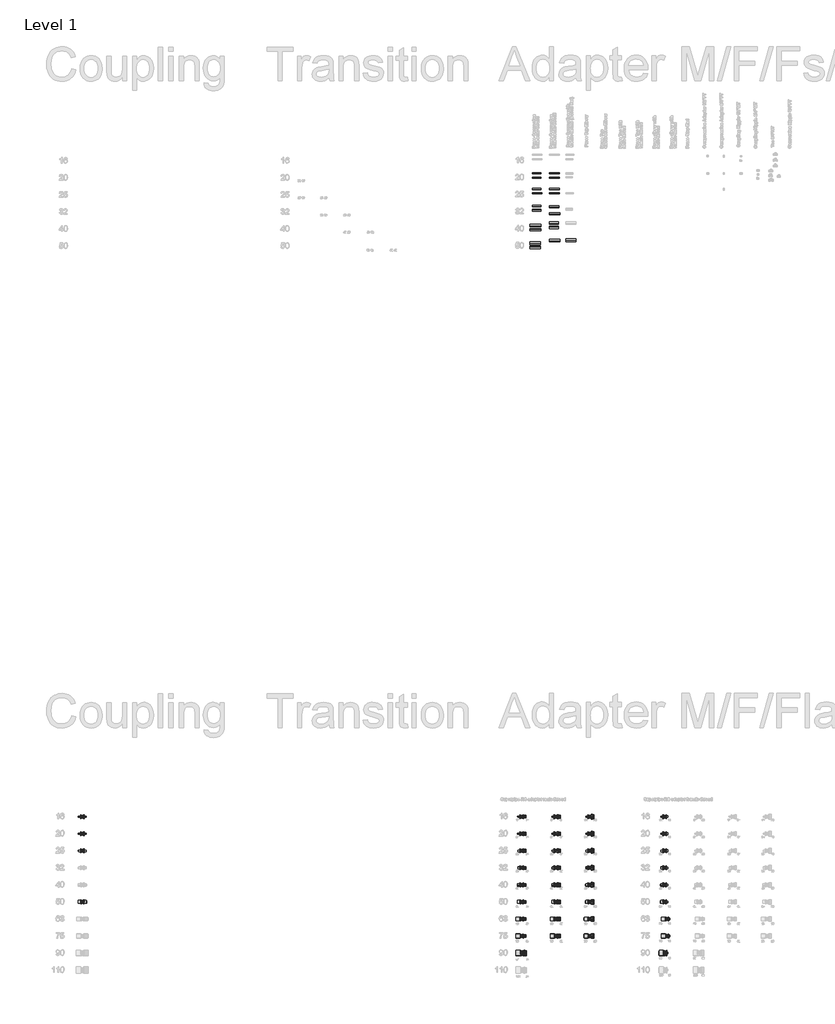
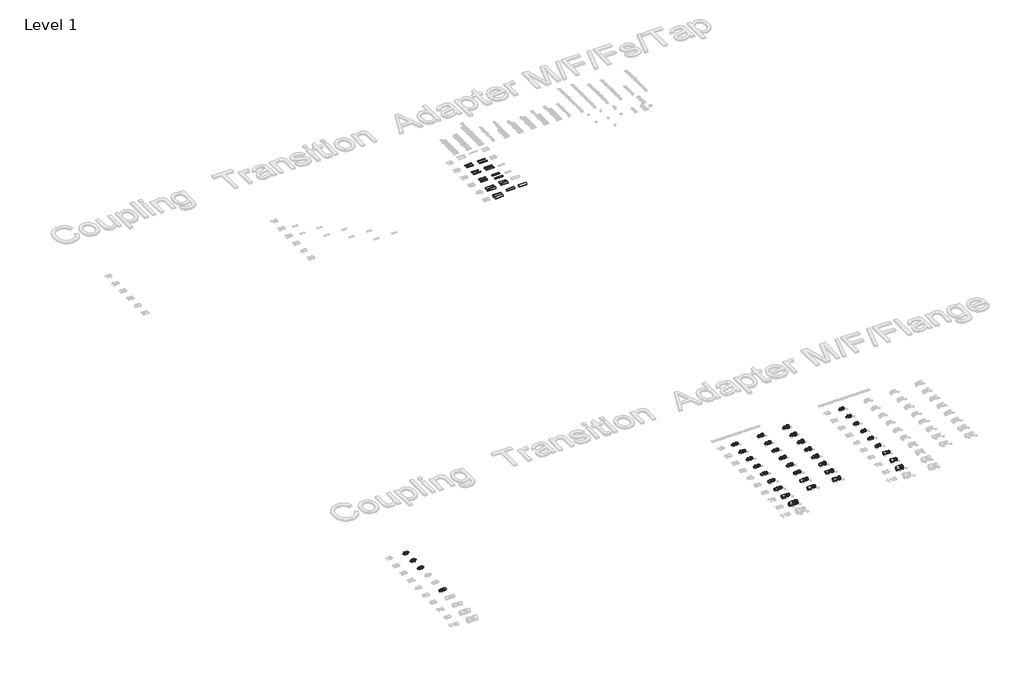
# One storey, part 4 of 58: 76 pipe fittings, 20 pipe segments.
"""IFC4 building model written with IfcOpenShell, lengths in millimetres."""

from ifc_helpers import new_model, si_unit, point, frame, frame_2d, origin, place, context, project, spatial, circle_curve, trimmed, segment, composite_curve, outline, extrude, transform, mapped, element, save
from components import rs_adapter_b4bbd465, rs_adapter_f82712ed, rs_adapter_ef84fdb0, rs_adapter_c6cd646c, rs_adapter_ed761ce0, rs_adapter_634e7d73, rs_adapter_fc67200b, rs_adapter_b700a1d7, rs_adapter_1ad0a11d, rs_female_adapter_fa9c9adc, rs_female_adapter_0a1702e8, rs_male_adapter_99ed5b1f, rs_male_adapter_996c7fea, rs_male_adapter_f12c7176, rs_male_adapter_b5bc1ed4

model = new_model("IFC4")

# Units and contexts
model_context = context("Model", 3, world=origin())
ifc_project = project(units=[si_unit("LENGTHUNIT", "METRE", prefix="MILLI")], contexts=[model_context])

# Site, building, storey
site = spatial("IfcSite", under=ifc_project)
building = spatial("IfcBuilding", under=site)
storey = spatial("IfcBuildingStorey", under=building, Name="Level 1", Elevation=27.3876384)

# Pipe fittings
placement = place(None, origin())
rs_adapter_shape = rs_adapter_b4bbd465(model_context)
element("IfcPipeFitting", 1, ObjectType="RS Adapter : Superpipe RS Press Adapter", at=placement, inside=storey, context=model_context, shape_type="MappedRepresentation", body=[
    mapped(rs_adapter_shape, transform((21455.9646899, 18646.8081159, 27.3876384), x_axis=(1.0000000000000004, 0.0, 0.0), y_axis=(0.0, -1.0000000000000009, 0.0), z_axis=(0.0, 0.0, -1.0000000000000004))),
])
element("IfcPipeFitting", 2, ObjectType="RS Adapter : Superpipe RS Press Adapter", at=placement, inside=storey, context=model_context, shape_type="MappedRepresentation", body=[
    mapped(rs_adapter_shape, transform((21437.9646899, 18646.8081159, 27.3876384), x_axis=(-1.0000000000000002, 0.0, 0.0), y_axis=(0.0, 1.0000000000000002, 0.0), z_axis=(0.0, 0.0, -1.0))),
])
element("IfcPipeFitting", 3, ObjectType="RS Adapter : Superpipe RS Press Adapter", at=placement, inside=storey, context=model_context, shape_type="MappedRepresentation", body=[
    mapped(rs_adapter_shape, transform((29168.6568613, 18646.8081159, 27.3876384), x_axis=(-1.0, 0.0, 0.0), y_axis=(0.0, 1.0, 0.0), z_axis=(0.0, 0.0, -1.0))),
])
element("IfcPipeFitting", 4, ObjectType="RS Adapter : Superpipe RS Press Adapter", at=placement, inside=storey, context=model_context, shape_type="MappedRepresentation", body=[
    mapped(rs_adapter_shape, transform((31688.6568613, 18646.8081159, 27.3876384), x_axis=(-1.0000000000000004, 0.0, 0.0), y_axis=(0.0, 1.0000000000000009, 0.0), z_axis=(0.0, 0.0, -1.0000000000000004))),
])
element("IfcPipeFitting", 5, ObjectType="RS Adapter : Superpipe RS Press Adapter", at=placement, inside=storey, context=model_context, shape_type="MappedRepresentation", body=[
    mapped(rs_adapter_shape, transform((29773.6568613, 18646.8081159, 27.3876384), x_axis=(-1.0, 0.0, 0.0), y_axis=(0.0, 1.0, 0.0), z_axis=(0.0, 0.0, -1.0))),
])
element("IfcPipeFitting", 6, ObjectType="RS Adapter : Superpipe RS Press Adapter", at=placement, inside=storey, context=model_context, shape_type="MappedRepresentation", body=[
    mapped(rs_adapter_shape, transform((30368.6568613, 18646.8081159, 27.3876384), x_axis=(-1.0, 0.0, 0.0), y_axis=(0.0, -1.0, 0.0), z_axis=(0.0, 0.0, 1.0))),
])
rs_adapter_2_shape = rs_adapter_f82712ed(model_context)
element("IfcPipeFitting", 7, ObjectType="RS Adapter : Superpipe RS Press Adapter", at=placement, inside=storey, context=model_context, shape_type="MappedRepresentation", body=[
    mapped(rs_adapter_2_shape, transform((21455.9646899, 18346.8081159, 27.3876384), x_axis=(1.0000000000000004, 0.0, 0.0), y_axis=(0.0, -1.0000000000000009, 0.0), z_axis=(0.0, 0.0, -1.0000000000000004))),
])
element("IfcPipeFitting", 8, ObjectType="RS Adapter : Superpipe RS Press Adapter", at=placement, inside=storey, context=model_context, shape_type="MappedRepresentation", body=[
    mapped(rs_adapter_2_shape, transform((21437.9646899, 18346.8081159, 27.3876384), x_axis=(-1.0000000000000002, 0.0, 0.0), y_axis=(0.0, 1.0000000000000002, 0.0), z_axis=(0.0, 0.0, -1.0))),
])
element("IfcPipeFitting", 9, ObjectType="RS Adapter : Superpipe RS Press Adapter", at=placement, inside=storey, context=model_context, shape_type="MappedRepresentation", body=[
    mapped(rs_adapter_2_shape, transform((29168.6568613, 18346.8081159, 27.3876384), x_axis=(-1.0, 0.0, 0.0), y_axis=(0.0, 1.0, 0.0), z_axis=(0.0, 0.0, -1.0))),
])
element("IfcPipeFitting", 10, ObjectType="RS Adapter : Superpipe RS Press Adapter", at=placement, inside=storey, context=model_context, shape_type="MappedRepresentation", body=[
    mapped(rs_adapter_2_shape, transform((31688.6568613, 18346.8081159, 27.3876384), x_axis=(-1.0000000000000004, 0.0, 0.0), y_axis=(0.0, 1.0000000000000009, 0.0), z_axis=(0.0, 0.0, -1.0000000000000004))),
])
element("IfcPipeFitting", 11, ObjectType="RS Adapter : Superpipe RS Press Adapter", at=placement, inside=storey, context=model_context, shape_type="MappedRepresentation", body=[
    mapped(rs_adapter_2_shape, transform((29773.6568613, 18346.8081159, 27.3876384), x_axis=(-1.0, 0.0, 0.0), y_axis=(0.0, 1.0, 0.0), z_axis=(0.0, 0.0, -1.0))),
])
element("IfcPipeFitting", 12, ObjectType="RS Adapter : Superpipe RS Press Adapter", at=placement, inside=storey, context=model_context, shape_type="MappedRepresentation", body=[
    mapped(rs_adapter_2_shape, transform((30368.6568613, 18346.8081159, 27.3876384), x_axis=(-1.0, 0.0, 0.0), y_axis=(0.0, -1.0, 0.0), z_axis=(0.0, 0.0, 1.0))),
])
rs_adapter_3_shape = rs_adapter_ef84fdb0(model_context)
element("IfcPipeFitting", 13, ObjectType="RS Adapter : Superpipe RS Press Adapter", at=placement, inside=storey, context=model_context, shape_type="MappedRepresentation", body=[
    mapped(rs_adapter_3_shape, transform((21455.9646899, 18046.8081159, 27.3876384), x_axis=(1.0000000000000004, 0.0, 0.0), y_axis=(0.0, -1.0000000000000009, 0.0), z_axis=(0.0, 0.0, -1.0000000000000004))),
])
element("IfcPipeFitting", 14, ObjectType="RS Adapter : Superpipe RS Press Adapter", at=placement, inside=storey, context=model_context, shape_type="MappedRepresentation", body=[
    mapped(rs_adapter_3_shape, transform((21437.9646899, 18046.8081159, 27.3876384), x_axis=(-1.0000000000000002, 0.0, 0.0), y_axis=(0.0, 1.0000000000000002, 0.0), z_axis=(0.0, 0.0, -1.0))),
])
element("IfcPipeFitting", 15, ObjectType="RS Adapter : Superpipe RS Press Adapter", at=placement, inside=storey, context=model_context, shape_type="MappedRepresentation", body=[
    mapped(rs_adapter_3_shape, transform((29168.6568613, 18046.8081159, 27.3876384), x_axis=(-1.0, 0.0, 0.0), y_axis=(0.0, 1.0, 0.0), z_axis=(0.0, 0.0, -1.0))),
])
element("IfcPipeFitting", 16, ObjectType="RS Adapter : Superpipe RS Press Adapter", at=placement, inside=storey, context=model_context, shape_type="MappedRepresentation", body=[
    mapped(rs_adapter_3_shape, transform((31688.6568613, 18046.8081159, 27.3876384), x_axis=(-1.0000000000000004, 0.0, 0.0), y_axis=(0.0, 1.0000000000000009, 0.0), z_axis=(0.0, 0.0, -1.0000000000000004))),
])
element("IfcPipeFitting", 17, ObjectType="RS Adapter : Superpipe RS Press Adapter", at=placement, inside=storey, context=model_context, shape_type="MappedRepresentation", body=[
    mapped(rs_adapter_3_shape, transform((29773.6568613, 18046.8081159, 27.3876384), x_axis=(-1.0, 0.0, 0.0), y_axis=(0.0, 1.0, 0.0), z_axis=(0.0, 0.0, -1.0))),
])
element("IfcPipeFitting", 18, ObjectType="RS Adapter : Superpipe RS Press Adapter", at=placement, inside=storey, context=model_context, shape_type="MappedRepresentation", body=[
    mapped(rs_adapter_3_shape, transform((30368.6568613, 18046.8081159, 27.3876384), x_axis=(-1.0, 0.0, 0.0), y_axis=(0.0, -1.0, 0.0), z_axis=(0.0, 0.0, 1.0))),
])
rs_adapter_4_shape = rs_adapter_c6cd646c(model_context)
element("IfcPipeFitting", 19, ObjectType="RS Adapter : Superpipe RS Press Adapter", at=placement, inside=storey, context=model_context, shape_type="MappedRepresentation", body=[
    mapped(rs_adapter_4_shape, transform((29176.6568613, 16246.8081159, 27.3876384), x_axis=(-1.0, 0.0, 0.0), y_axis=(0.0, 1.0, 0.0), z_axis=(0.0, 0.0, -1.0))),
])
element("IfcPipeFitting", 20, ObjectType="RS Adapter : Superpipe RS Press Adapter", at=placement, inside=storey, context=model_context, shape_type="MappedRepresentation", body=[
    mapped(rs_adapter_4_shape, transform((31696.6568613, 16246.8081159, 27.3876384), x_axis=(-1.0000000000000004, 0.0, 0.0), y_axis=(0.0, 1.0000000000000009, 0.0), z_axis=(0.0, 0.0, -1.0000000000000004))),
])
rs_adapter_5_shape = rs_adapter_ed761ce0(model_context)
element("IfcPipeFitting", 21, ObjectType="RS Adapter : Superpipe RS Press Adapter", at=placement, inside=storey, context=model_context, shape_type="MappedRepresentation", body=[
    mapped(rs_adapter_5_shape, transform((29168.6568613, 17746.8081159, 27.3876384), x_axis=(-1.0, 0.0, 0.0), y_axis=(0.0, 1.0, 0.0), z_axis=(0.0, 0.0, -1.0))),
])
element("IfcPipeFitting", 22, ObjectType="RS Adapter : Superpipe RS Press Adapter", at=placement, inside=storey, context=model_context, shape_type="MappedRepresentation", body=[
    mapped(rs_adapter_5_shape, transform((31688.6568613, 17746.8081159, 27.3876384), x_axis=(-1.0000000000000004, 0.0, 0.0), y_axis=(0.0, 1.0000000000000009, 0.0), z_axis=(0.0, 0.0, -1.0000000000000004))),
])
element("IfcPipeFitting", 23, ObjectType="RS Adapter : Superpipe RS Press Adapter", at=placement, inside=storey, context=model_context, shape_type="MappedRepresentation", body=[
    mapped(rs_adapter_5_shape, transform((29773.6568613, 17746.8081159, 27.3876384), x_axis=(-1.0, 0.0, 0.0), y_axis=(0.0, 1.0, 0.0), z_axis=(0.0, 0.0, -1.0))),
])
element("IfcPipeFitting", 24, ObjectType="RS Adapter : Superpipe RS Press Adapter", at=placement, inside=storey, context=model_context, shape_type="MappedRepresentation", body=[
    mapped(rs_adapter_5_shape, transform((30368.6568613, 17746.8081159, 27.3876384), x_axis=(-1.0, 0.0, 0.0), y_axis=(0.0, -1.0, 0.0), z_axis=(0.0, 0.0, 1.0))),
])
rs_adapter_6_shape = rs_adapter_634e7d73(model_context)
element("IfcPipeFitting", 25, ObjectType="RS Adapter : Superpipe RS Press Adapter", at=placement, inside=storey, context=model_context, shape_type="MappedRepresentation", body=[
    mapped(rs_adapter_6_shape, transform((29168.6568613, 17446.8081159, 27.3876384), x_axis=(-1.0, 0.0, 0.0), y_axis=(0.0, 1.0, 0.0), z_axis=(0.0, 0.0, -1.0))),
])
element("IfcPipeFitting", 26, ObjectType="RS Adapter : Superpipe RS Press Adapter", at=placement, inside=storey, context=model_context, shape_type="MappedRepresentation", body=[
    mapped(rs_adapter_6_shape, transform((31688.6568613, 17446.8081159, 27.3876384), x_axis=(-1.0000000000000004, 0.0, 0.0), y_axis=(0.0, 1.0000000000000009, 0.0), z_axis=(0.0, 0.0, -1.0000000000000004))),
])
element("IfcPipeFitting", 27, ObjectType="RS Adapter : Superpipe RS Press Adapter", at=placement, inside=storey, context=model_context, shape_type="MappedRepresentation", body=[
    mapped(rs_adapter_6_shape, transform((29773.6568613, 17446.8081159, 27.3876384), x_axis=(-1.0, 0.0, 0.0), y_axis=(0.0, 1.0, 0.0), z_axis=(0.0, 0.0, -1.0))),
])
element("IfcPipeFitting", 28, ObjectType="RS Adapter : Superpipe RS Press Adapter", at=placement, inside=storey, context=model_context, shape_type="MappedRepresentation", body=[
    mapped(rs_adapter_6_shape, transform((30368.6568613, 17446.8081159, 27.3876384), x_axis=(-1.0, 0.0, 0.0), y_axis=(0.0, -1.0, 0.0), z_axis=(0.0, 0.0, 1.0))),
])
rs_adapter_7_shape = rs_adapter_fc67200b(model_context)
element("IfcPipeFitting", 29, ObjectType="RS Adapter : Superpipe RS Press Adapter", at=placement, inside=storey, context=model_context, shape_type="MappedRepresentation", body=[
    mapped(rs_adapter_7_shape, transform((21455.9646899, 17146.8081159, 27.3876384), x_axis=(1.0000000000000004, 0.0, 0.0), y_axis=(0.0, -1.0000000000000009, 0.0), z_axis=(0.0, 0.0, -1.0000000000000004))),
])
element("IfcPipeFitting", 30, ObjectType="RS Adapter : Superpipe RS Press Adapter", at=placement, inside=storey, context=model_context, shape_type="MappedRepresentation", body=[
    mapped(rs_adapter_7_shape, transform((21437.9646899, 17146.8081159, 27.3876384), x_axis=(-1.0000000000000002, 0.0, 0.0), y_axis=(0.0, 1.0000000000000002, 0.0), z_axis=(0.0, 0.0, -1.0))),
])
element("IfcPipeFitting", 31, ObjectType="RS Adapter : Superpipe RS Press Adapter", at=placement, inside=storey, context=model_context, shape_type="MappedRepresentation", body=[
    mapped(rs_adapter_7_shape, transform((29168.6568613, 17146.8081159, 27.3876384), x_axis=(-1.0, 0.0, 0.0), y_axis=(0.0, 1.0, 0.0), z_axis=(0.0, 0.0, -1.0))),
])
element("IfcPipeFitting", 32, ObjectType="RS Adapter : Superpipe RS Press Adapter", at=placement, inside=storey, context=model_context, shape_type="MappedRepresentation", body=[
    mapped(rs_adapter_7_shape, transform((31688.6568613, 17146.8081159, 27.3876384), x_axis=(-1.0000000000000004, 0.0, 0.0), y_axis=(0.0, 1.0000000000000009, 0.0), z_axis=(0.0, 0.0, -1.0000000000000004))),
])
element("IfcPipeFitting", 33, ObjectType="RS Adapter : Superpipe RS Press Adapter", at=placement, inside=storey, context=model_context, shape_type="MappedRepresentation", body=[
    mapped(rs_adapter_7_shape, transform((29773.6568613, 17146.8081159, 27.3876384), x_axis=(-1.0, 0.0, 0.0), y_axis=(0.0, 1.0, 0.0), z_axis=(0.0, 0.0, -1.0))),
])
element("IfcPipeFitting", 34, ObjectType="RS Adapter : Superpipe RS Press Adapter", at=placement, inside=storey, context=model_context, shape_type="MappedRepresentation", body=[
    mapped(rs_adapter_7_shape, transform((30368.6568613, 17146.8081159, 27.3876384), x_axis=(-1.0, 0.0, 0.0), y_axis=(0.0, -1.0, 0.0), z_axis=(0.0, 0.0, 1.0))),
])
rs_adapter_8_shape = rs_adapter_b700a1d7(model_context)
element("IfcPipeFitting", 35, ObjectType="RS Adapter : Superpipe RS Press Adapter", at=placement, inside=storey, context=model_context, shape_type="MappedRepresentation", body=[
    mapped(rs_adapter_8_shape, transform((29168.6568613, 16546.8081159, 27.3876384), x_axis=(-1.0, 0.0, 0.0), y_axis=(0.0, 1.0, 0.0), z_axis=(0.0, 0.0, -1.0))),
])
element("IfcPipeFitting", 36, ObjectType="RS Adapter : Superpipe RS Press Adapter", at=placement, inside=storey, context=model_context, shape_type="MappedRepresentation", body=[
    mapped(rs_adapter_8_shape, transform((31728.6568613, 16546.8081159, 27.3876384), x_axis=(-1.0000000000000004, 0.0, 0.0), y_axis=(0.0, 1.0000000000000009, 0.0), z_axis=(0.0, 0.0, -1.0000000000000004))),
])
element("IfcPipeFitting", 37, ObjectType="RS Adapter : Superpipe RS Press Adapter", at=placement, inside=storey, context=model_context, shape_type="MappedRepresentation", body=[
    mapped(rs_adapter_8_shape, transform((29773.6568613, 16546.8081159, 27.3876384), x_axis=(-1.0, 0.0, 0.0), y_axis=(0.0, 1.0, 0.0), z_axis=(0.0, 0.0, -1.0))),
])
element("IfcPipeFitting", 38, ObjectType="RS Adapter : Superpipe RS Press Adapter", at=placement, inside=storey, context=model_context, shape_type="MappedRepresentation", body=[
    mapped(rs_adapter_8_shape, transform((30368.6568613, 16546.8081159, 27.3876384), x_axis=(-1.0, 0.0, 0.0), y_axis=(0.0, -1.0, 0.0), z_axis=(0.0, 0.0, 1.0))),
])
rs_adapter_9_shape = rs_adapter_1ad0a11d(model_context)
element("IfcPipeFitting", 39, ObjectType="RS Adapter : Superpipe RS Press Adapter", at=placement, inside=storey, context=model_context, shape_type="MappedRepresentation", body=[
    mapped(rs_adapter_9_shape, transform((29168.6568613, 16846.8081159, 27.3876384), x_axis=(-1.0, 0.0, 0.0), y_axis=(0.0, 1.0, 0.0), z_axis=(0.0, 0.0, -1.0))),
])
element("IfcPipeFitting", 40, ObjectType="RS Adapter : Superpipe RS Press Adapter", at=placement, inside=storey, context=model_context, shape_type="MappedRepresentation", body=[
    mapped(rs_adapter_9_shape, transform((31728.6568613, 16846.8081159, 27.3876384), x_axis=(-1.0000000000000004, 0.0, 0.0), y_axis=(0.0, 1.0000000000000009, 0.0), z_axis=(0.0, 0.0, -1.0000000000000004))),
])
element("IfcPipeFitting", 41, ObjectType="RS Adapter : Superpipe RS Press Adapter", at=placement, inside=storey, context=model_context, shape_type="MappedRepresentation", body=[
    mapped(rs_adapter_9_shape, transform((29773.6568613, 16846.8081159, 27.3876384), x_axis=(-1.0, 0.0, 0.0), y_axis=(0.0, 1.0, 0.0), z_axis=(0.0, 0.0, -1.0))),
])
element("IfcPipeFitting", 42, ObjectType="RS Adapter : Superpipe RS Press Adapter", at=placement, inside=storey, context=model_context, shape_type="MappedRepresentation", body=[
    mapped(rs_adapter_9_shape, transform((30368.6568613, 16846.8081159, 27.3876384), x_axis=(-1.0, 0.0, 0.0), y_axis=(0.0, -1.0, 0.0), z_axis=(0.0, 0.0, 1.0))),
])
rs_female_adapter_shape = rs_female_adapter_fa9c9adc(model_context)
element("IfcPipeFitting", 43, ObjectType="RS Female Adapter : Superpipe RS2 FT Adapter ½”", at=placement, inside=storey, context=model_context, shape_type="MappedRepresentation", body=[
    mapped(rs_female_adapter_shape, transform((31706.6568613, 18646.8081159, 27.3876384), x_axis=(1.0, 0.0, 0.0), y_axis=(0.0, -1.0, 0.0), z_axis=(0.0, 0.0, -1.0))),
])
element("IfcPipeFitting", 44, ObjectType="RS Female Adapter : Superpipe RS2 FT Adapter ½”", at=placement, inside=storey, context=model_context, shape_type="MappedRepresentation", body=[
    mapped(rs_female_adapter_shape, transform((31706.6568613, 18046.8081159, 27.3876384), x_axis=(1.0, 0.0, 0.0), y_axis=(0.0, -1.0, 0.0), z_axis=(0.0, 0.0, -1.0))),
])
element("IfcPipeFitting", 45, ObjectType="RS Female Adapter : Superpipe RS2 FT Adapter ½”", at=placement, inside=storey, context=model_context, shape_type="MappedRepresentation", body=[
    mapped(rs_female_adapter_shape, transform((31706.6568613, 17746.8081159, 27.3876384), x_axis=(1.0, 0.0, 0.0), y_axis=(0.0, -1.0, 0.0), z_axis=(0.0, 0.0, -1.0))),
])
element("IfcPipeFitting", 46, ObjectType="RS Female Adapter : Superpipe RS2 FT Adapter ½”", at=placement, inside=storey, context=model_context, shape_type="MappedRepresentation", body=[
    mapped(rs_female_adapter_shape, transform((31706.6568613, 17446.8081159, 27.3876384), x_axis=(1.0, 0.0, 0.0), y_axis=(0.0, -1.0, 0.0), z_axis=(0.0, 0.0, -1.0))),
])
element("IfcPipeFitting", 47, ObjectType="RS Female Adapter : Superpipe RS2 FT Adapter ½”", at=placement, inside=storey, context=model_context, shape_type="MappedRepresentation", body=[
    mapped(rs_female_adapter_shape, transform((31706.6568613, 17146.8081159, 27.3876384), x_axis=(1.0, 0.0, 0.0), y_axis=(0.0, -1.0, 0.0), z_axis=(0.0, 0.0, -1.0))),
])
element("IfcPipeFitting", 48, ObjectType="RS Female Adapter : Superpipe RS2 FT Adapter ½”", at=placement, inside=storey, context=model_context, shape_type="MappedRepresentation", body=[
    mapped(rs_female_adapter_shape, transform((31746.6568613, 16846.8081159, 27.3876384), x_axis=(1.0, 0.0, 0.0), y_axis=(0.0, -1.0, 0.0), z_axis=(0.0, 0.0, -1.0))),
])
element("IfcPipeFitting", 49, ObjectType="RS Female Adapter : Superpipe RS2 FT Adapter ½”", at=placement, inside=storey, context=model_context, shape_type="MappedRepresentation", body=[
    mapped(rs_female_adapter_shape, transform((31746.6568613, 16546.8081159, 27.3876384), x_axis=(1.0, 0.0, 0.0), y_axis=(0.0, -1.0, 0.0), z_axis=(0.0, 0.0, -1.0))),
])
element("IfcPipeFitting", 50, ObjectType="RS Female Adapter : Superpipe RS2 FT Adapter ½”", at=placement, inside=storey, context=model_context, shape_type="MappedRepresentation", body=[
    mapped(rs_female_adapter_shape, transform((31706.6568613, 18346.8081159, 27.3876384), x_axis=(1.0, 0.0, 0.0), y_axis=(0.0, -1.0, 0.0), z_axis=(0.0, 0.0, -1.0))),
])
rs_female_adapter_2_shape = rs_female_adapter_0a1702e8(model_context)
element("IfcPipeFitting", 51, ObjectType="RS Female Adapter : Superpipe RS3 FT Adapter ½”", at=placement, inside=storey, context=model_context, shape_type="MappedRepresentation", body=[
    mapped(rs_female_adapter_2_shape, transform((31714.6568613, 16246.8081159, 27.3876384), x_axis=(1.0, 0.0, 0.0), y_axis=(0.0, -1.0, 0.0), z_axis=(0.0, 0.0, -1.0))),
])
rs_male_adapter_shape = rs_male_adapter_99ed5b1f(model_context)
element("IfcPipeFitting", 52, ObjectType="RS Male Adapter : Superpipe RS2 MT Adapter 2”", at=placement, inside=storey, context=model_context, shape_type="MappedRepresentation", body=[
    mapped(rs_male_adapter_shape, transform((29791.6568613, 18646.8081159, 27.3876384), x_axis=(1.0, 0.0, 0.0), y_axis=(0.0, -1.0, 0.0), z_axis=(0.0, 0.0, -1.0))),
])
element("IfcPipeFitting", 53, ObjectType="RS Male Adapter : Superpipe RS2 MT Adapter 2”", at=placement, inside=storey, context=model_context, shape_type="MappedRepresentation", body=[
    mapped(rs_male_adapter_shape, transform((29791.6568613, 18346.8081159, 27.3876384), x_axis=(1.0, 0.0, 0.0), y_axis=(0.0, -1.0, 0.0), z_axis=(0.0, 0.0, -1.0))),
])
element("IfcPipeFitting", 54, ObjectType="RS Male Adapter : Superpipe RS2 MT Adapter 2”", at=placement, inside=storey, context=model_context, shape_type="MappedRepresentation", body=[
    mapped(rs_male_adapter_shape, transform((29791.6568613, 18046.8081159, 27.3876384), x_axis=(1.0, 0.0, 0.0), y_axis=(0.0, -1.0, 0.0), z_axis=(0.0, 0.0, -1.0))),
])
element("IfcPipeFitting", 55, ObjectType="RS Male Adapter : Superpipe RS2 MT Adapter 2”", at=placement, inside=storey, context=model_context, shape_type="MappedRepresentation", body=[
    mapped(rs_male_adapter_shape, transform((29791.6568613, 17746.8081159, 27.3876384), x_axis=(1.0, 0.0, 0.0), y_axis=(0.0, -1.0, 0.0), z_axis=(0.0, 0.0, -1.0))),
])
element("IfcPipeFitting", 56, ObjectType="RS Male Adapter : Superpipe RS2 MT Adapter 2”", at=placement, inside=storey, context=model_context, shape_type="MappedRepresentation", body=[
    mapped(rs_male_adapter_shape, transform((29791.6568613, 17446.8081159, 27.3876384), x_axis=(1.0, 0.0, 0.0), y_axis=(0.0, -1.0, 0.0), z_axis=(0.0, 0.0, -1.0))),
])
element("IfcPipeFitting", 57, ObjectType="RS Male Adapter : Superpipe RS2 MT Adapter 2”", at=placement, inside=storey, context=model_context, shape_type="MappedRepresentation", body=[
    mapped(rs_male_adapter_shape, transform((29791.6568613, 17146.8081159, 27.3876384), x_axis=(1.0, 0.0, 0.0), y_axis=(0.0, -1.0, 0.0), z_axis=(0.0, 0.0, -1.0))),
])
element("IfcPipeFitting", 58, ObjectType="RS Male Adapter : Superpipe RS2 MT Adapter 2”", at=placement, inside=storey, context=model_context, shape_type="MappedRepresentation", body=[
    mapped(rs_male_adapter_shape, transform((29791.6568613, 16846.8081159, 27.3876384), x_axis=(1.0, 0.0, 0.0), y_axis=(0.0, -1.0, 0.0), z_axis=(0.0, 0.0, -1.0))),
])
element("IfcPipeFitting", 59, ObjectType="RS Male Adapter : Superpipe RS2 MT Adapter 2”", at=placement, inside=storey, context=model_context, shape_type="MappedRepresentation", body=[
    mapped(rs_male_adapter_shape, transform((29791.6568613, 16546.8081159, 27.3876384), x_axis=(1.0, 0.0, 0.0), y_axis=(0.0, -1.0, 0.0), z_axis=(0.0, 0.0, -1.0))),
])
rs_male_adapter_2_shape = rs_male_adapter_996c7fea(model_context)
element("IfcPipeFitting", 60, ObjectType="RS Male Adapter : Superpipe RS2 MT Adapter  2 ½”", at=placement, inside=storey, context=model_context, shape_type="MappedRepresentation", body=[
    mapped(rs_male_adapter_2_shape, transform((30386.6568613, 18646.8081159, 27.3876384), x_axis=(1.0, 0.0, 0.0), y_axis=(0.0, 1.0, 0.0), z_axis=(0.0, 0.0, 1.0))),
])
element("IfcPipeFitting", 61, ObjectType="RS Male Adapter : Superpipe RS2 MT Adapter  2 ½”", at=placement, inside=storey, context=model_context, shape_type="MappedRepresentation", body=[
    mapped(rs_male_adapter_2_shape, transform((30386.6568613, 18346.8081159, 27.3876384), x_axis=(1.0, 0.0, 0.0), y_axis=(0.0, 1.0, 0.0), z_axis=(0.0, 0.0, 1.0))),
])
element("IfcPipeFitting", 62, ObjectType="RS Male Adapter : Superpipe RS2 MT Adapter  2 ½”", at=placement, inside=storey, context=model_context, shape_type="MappedRepresentation", body=[
    mapped(rs_male_adapter_2_shape, transform((30386.6568613, 18046.8081159, 27.3876384), x_axis=(1.0, 0.0, 0.0), y_axis=(0.0, 1.0, 0.0), z_axis=(0.0, 0.0, 1.0))),
])
element("IfcPipeFitting", 63, ObjectType="RS Male Adapter : Superpipe RS2 MT Adapter  2 ½”", at=placement, inside=storey, context=model_context, shape_type="MappedRepresentation", body=[
    mapped(rs_male_adapter_2_shape, transform((30386.6568613, 17746.8081159, 27.3876384), x_axis=(1.0, 0.0, 0.0), y_axis=(0.0, 1.0, 0.0), z_axis=(0.0, 0.0, 1.0))),
])
element("IfcPipeFitting", 64, ObjectType="RS Male Adapter : Superpipe RS2 MT Adapter  2 ½”", at=placement, inside=storey, context=model_context, shape_type="MappedRepresentation", body=[
    mapped(rs_male_adapter_2_shape, transform((30386.6568613, 17446.8081159, 27.3876384), x_axis=(1.0, 0.0, 0.0), y_axis=(0.0, 1.0, 0.0), z_axis=(0.0, 0.0, 1.0))),
])
element("IfcPipeFitting", 65, ObjectType="RS Male Adapter : Superpipe RS2 MT Adapter  2 ½”", at=placement, inside=storey, context=model_context, shape_type="MappedRepresentation", body=[
    mapped(rs_male_adapter_2_shape, transform((30386.6568613, 17146.8081159, 27.3876384), x_axis=(1.0, 0.0, 0.0), y_axis=(0.0, 1.0, 0.0), z_axis=(0.0, 0.0, 1.0))),
])
element("IfcPipeFitting", 66, ObjectType="RS Male Adapter : Superpipe RS2 MT Adapter  2 ½”", at=placement, inside=storey, context=model_context, shape_type="MappedRepresentation", body=[
    mapped(rs_male_adapter_2_shape, transform((30386.6568613, 16846.8081159, 27.3876384), x_axis=(1.0, 0.0, 0.0), y_axis=(0.0, 1.0, 0.0), z_axis=(0.0, 0.0, 1.0))),
])
element("IfcPipeFitting", 67, ObjectType="RS Male Adapter : Superpipe RS2 MT Adapter  2 ½”", at=placement, inside=storey, context=model_context, shape_type="MappedRepresentation", body=[
    mapped(rs_male_adapter_2_shape, transform((30386.6568613, 16546.8081159, 27.3876384), x_axis=(1.0, 0.0, 0.0), y_axis=(0.0, 1.0, 0.0), z_axis=(0.0, 0.0, 1.0))),
])
rs_male_adapter_3_shape = rs_male_adapter_f12c7176(model_context)
element("IfcPipeFitting", 68, ObjectType="RS Male Adapter : Superpipe RS3 MT Adapter 3”", at=placement, inside=storey, context=model_context, shape_type="MappedRepresentation", body=[
    mapped(rs_male_adapter_3_shape, transform((29194.6568613, 16246.8081159, 27.3876384), x_axis=(1.0, 0.0, 0.0), y_axis=(0.0, -1.0, 0.0), z_axis=(0.0, 0.0, -1.0))),
])
rs_male_adapter_4_shape = rs_male_adapter_b5bc1ed4(model_context)
element("IfcPipeFitting", 69, ObjectType="RS Male Adapter : Superpipe RS2 MT Adapter 1 ½”", at=placement, inside=storey, context=model_context, shape_type="MappedRepresentation", body=[
    mapped(rs_male_adapter_4_shape, transform((29186.6568613, 18046.8081159, 27.3876384), x_axis=(1.0, 0.0, 0.0), y_axis=(0.0, -1.0, 0.0), z_axis=(0.0, 0.0, -1.0))),
])
element("IfcPipeFitting", 70, ObjectType="RS Male Adapter : Superpipe RS2 MT Adapter 1 ½”", at=placement, inside=storey, context=model_context, shape_type="MappedRepresentation", body=[
    mapped(rs_male_adapter_4_shape, transform((29186.6568613, 18346.8081159, 27.3876384), x_axis=(1.0, 0.0, 0.0), y_axis=(0.0, -1.0, 0.0), z_axis=(0.0, 0.0, -1.0))),
])
element("IfcPipeFitting", 71, ObjectType="RS Male Adapter : Superpipe RS2 MT Adapter 1 ½”", at=placement, inside=storey, context=model_context, shape_type="MappedRepresentation", body=[
    mapped(rs_male_adapter_4_shape, transform((29186.6568613, 17746.8081159, 27.3876384), x_axis=(1.0, 0.0, 0.0), y_axis=(0.0, -1.0, 0.0), z_axis=(0.0, 0.0, -1.0))),
])
element("IfcPipeFitting", 72, ObjectType="RS Male Adapter : Superpipe RS2 MT Adapter 1 ½”", at=placement, inside=storey, context=model_context, shape_type="MappedRepresentation", body=[
    mapped(rs_male_adapter_4_shape, transform((29186.6568613, 17446.8081159, 27.3876384), x_axis=(1.0, 0.0, 0.0), y_axis=(0.0, -1.0, 0.0), z_axis=(0.0, 0.0, -1.0))),
])
element("IfcPipeFitting", 73, ObjectType="RS Male Adapter : Superpipe RS2 MT Adapter 1 ½”", at=placement, inside=storey, context=model_context, shape_type="MappedRepresentation", body=[
    mapped(rs_male_adapter_4_shape, transform((29186.6568613, 17146.8081159, 27.3876384), x_axis=(1.0, 0.0, 0.0), y_axis=(0.0, -1.0, 0.0), z_axis=(0.0, 0.0, -1.0))),
])
element("IfcPipeFitting", 74, ObjectType="RS Male Adapter : Superpipe RS2 MT Adapter 1 ½”", at=placement, inside=storey, context=model_context, shape_type="MappedRepresentation", body=[
    mapped(rs_male_adapter_4_shape, transform((29186.6568613, 16846.8081159, 27.3876384), x_axis=(1.0, 0.0, 0.0), y_axis=(0.0, -1.0, 0.0), z_axis=(0.0, 0.0, -1.0))),
])
element("IfcPipeFitting", 75, ObjectType="RS Male Adapter : Superpipe RS2 MT Adapter 1 ½”", at=placement, inside=storey, context=model_context, shape_type="MappedRepresentation", body=[
    mapped(rs_male_adapter_4_shape, transform((29186.6568613, 16546.8081159, 27.3876384), x_axis=(1.0, 0.0, 0.0), y_axis=(0.0, -1.0, 0.0), z_axis=(0.0, 0.0, -1.0))),
])
element("IfcPipeFitting", 76, ObjectType="RS Male Adapter : Superpipe RS2 MT Adapter 1 ½”", at=placement, inside=storey, context=model_context, shape_type="MappedRepresentation", body=[
    mapped(rs_male_adapter_4_shape, transform((29186.6568613, 18646.8081159, 27.3876384), x_axis=(1.0, 0.0, 0.0), y_axis=(0.0, -1.0, 0.0), z_axis=(0.0, 0.0, -1.0))),
])

# Pipe segments
element("IfcPipeSegment", 77, ObjectType="Superpipe 2+ coil", at=placement, inside=storey, context=model_context, shape_type="SweptSolid", body=[
    extrude(outline(composite_curve([segment(trimmed(circle_curve(frame_2d((29610.1340079, 27.3876384)), 12.5), [point((29622.6340079, 27.3876384))], [point((29610.1340079, 14.8876384))], False, "CARTESIAN"), True, "CONTINUOUS"), segment(trimmed(circle_curve(frame_2d((29610.1340079, 27.3876384)), 12.5), [point((29610.1340079, 14.8876384))], [point((29597.6340079, 27.3876384))], False, "CARTESIAN"), True, "CONTINUOUS"), segment(trimmed(circle_curve(frame_2d((29610.1340079, 27.3876384)), 12.5), [point((29597.6340079, 27.3876384))], [point((29610.1340079, 39.8876384))], False, "CARTESIAN"), True, "CONTINUOUS"), segment(trimmed(circle_curve(frame_2d((29610.1340079, 27.3876384)), 12.5), [point((29610.1340079, 39.8876384))], [point((29622.6340079, 27.3876384))], False, "CARTESIAN"), True, "CONTINUOUS")], self_intersect=False)), frame((29368.8135329, 0.0, 0.0), z_axis=(1.0, 0.0, 0.0), x_axis=(0.0, 1.0, 0.0)), (0.0, 0.0, 1.0), 166.7597641),
])
element("IfcPipeSegment", 78, ObjectType="Superpipe 2+ coil", at=placement, inside=storey, context=model_context, shape_type="SweptSolid", body=[
    extrude(outline(composite_curve([segment(trimmed(circle_curve(frame_2d((29685.1340079, 27.3876384)), 12.5), [point((29697.6340079, 27.3876384))], [point((29685.1340079, 14.8876384))], False, "CARTESIAN"), True, "CONTINUOUS"), segment(trimmed(circle_curve(frame_2d((29685.1340079, 27.3876384)), 12.5), [point((29685.1340079, 14.8876384))], [point((29672.6340079, 27.3876384))], False, "CARTESIAN"), True, "CONTINUOUS"), segment(trimmed(circle_curve(frame_2d((29685.1340079, 27.3876384)), 12.5), [point((29672.6340079, 27.3876384))], [point((29685.1340079, 39.8876384))], False, "CARTESIAN"), True, "CONTINUOUS"), segment(trimmed(circle_curve(frame_2d((29685.1340079, 27.3876384)), 12.5), [point((29685.1340079, 39.8876384))], [point((29697.6340079, 27.3876384))], False, "CARTESIAN"), True, "CONTINUOUS")], self_intersect=False)), frame((29368.8135329, 0.0, 0.0), z_axis=(1.0, 0.0, 0.0), x_axis=(0.0, 1.0, 0.0)), (0.0, 0.0, 1.0), 151.5611503),
])
element("IfcPipeSegment", 79, ObjectType="Superpipe 2+ coil", at=placement, inside=storey, context=model_context, shape_type="SweptSolid", body=[
    extrude(outline(composite_curve([segment(trimmed(circle_curve(frame_2d((29310.1340079, 27.3876384)), 16.0), [point((29326.1340079, 27.3876384))], [point((29310.1340079, 11.3876384))], False, "CARTESIAN"), True, "CONTINUOUS"), segment(trimmed(circle_curve(frame_2d((29310.1340079, 27.3876384)), 16.0), [point((29310.1340079, 11.3876384))], [point((29294.1340079, 27.3876384))], False, "CARTESIAN"), True, "CONTINUOUS"), segment(trimmed(circle_curve(frame_2d((29310.1340079, 27.3876384)), 16.0), [point((29294.1340079, 27.3876384))], [point((29310.1340079, 43.3876384))], False, "CARTESIAN"), True, "CONTINUOUS"), segment(trimmed(circle_curve(frame_2d((29310.1340079, 27.3876384)), 16.0), [point((29310.1340079, 43.3876384))], [point((29326.1340079, 27.3876384))], False, "CARTESIAN"), True, "CONTINUOUS")], self_intersect=False)), frame((29368.8135329, 0.0, 0.0), z_axis=(1.0, 0.0, 0.0), x_axis=(0.0, 1.0, 0.0)), (0.0, 0.0, 1.0), 147.0611503),
])
element("IfcPipeSegment", 80, ObjectType="Superpipe 2+ coil", at=placement, inside=storey, context=model_context, shape_type="SweptSolid", body=[
    extrude(outline(composite_curve([segment(trimmed(circle_curve(frame_2d((29385.1340079, 27.3876384)), 16.0), [point((29401.1340079, 27.3876384))], [point((29385.1340079, 11.3876384))], False, "CARTESIAN"), True, "CONTINUOUS"), segment(trimmed(circle_curve(frame_2d((29385.1340079, 27.3876384)), 16.0), [point((29385.1340079, 11.3876384))], [point((29369.1340079, 27.3876384))], False, "CARTESIAN"), True, "CONTINUOUS"), segment(trimmed(circle_curve(frame_2d((29385.1340079, 27.3876384)), 16.0), [point((29369.1340079, 27.3876384))], [point((29385.1340079, 43.3876384))], False, "CARTESIAN"), True, "CONTINUOUS"), segment(trimmed(circle_curve(frame_2d((29385.1340079, 27.3876384)), 16.0), [point((29385.1340079, 43.3876384))], [point((29401.1340079, 27.3876384))], False, "CARTESIAN"), True, "CONTINUOUS")], self_intersect=False)), frame((29368.8135329, 0.0, 0.0), z_axis=(1.0, 0.0, 0.0), x_axis=(0.0, 1.0, 0.0)), (0.0, 0.0, 1.0), 147.0611503),
])
element("IfcPipeSegment", 81, ObjectType="Superpipe - straight x5m", at=placement, inside=storey, context=model_context, shape_type="SweptSolid", body=[
    extrude(outline(composite_curve([segment(trimmed(circle_curve(frame_2d((28967.572888, 27.3876384)), 20.0), [point((28987.572888, 27.3876384))], [point((28967.572888, 7.3876384))], False, "CARTESIAN"), True, "CONTINUOUS"), segment(trimmed(circle_curve(frame_2d((28967.572888, 27.3876384)), 20.0), [point((28967.572888, 7.3876384))], [point((28947.572888, 27.3876384))], False, "CARTESIAN"), True, "CONTINUOUS"), segment(trimmed(circle_curve(frame_2d((28967.572888, 27.3876384)), 20.0), [point((28947.572888, 27.3876384))], [point((28967.572888, 47.3876384))], False, "CARTESIAN"), True, "CONTINUOUS"), segment(trimmed(circle_curve(frame_2d((28967.572888, 27.3876384)), 20.0), [point((28967.572888, 47.3876384))], [point((28987.572888, 27.3876384))], False, "CARTESIAN"), True, "CONTINUOUS")], self_intersect=False)), frame((29326.252413, 0.0, 0.0), z_axis=(1.0, 0.0, 0.0), x_axis=(0.0, 1.0, 0.0)), (0.0, 0.0, 1.0), 189.0611503),
])
element("IfcPipeSegment", 82, ObjectType="Superpipe - straight x5m", at=placement, inside=storey, context=model_context, shape_type="SweptSolid", body=[
    extrude(outline(composite_curve([segment(trimmed(circle_curve(frame_2d((29042.572888, 27.3876384)), 20.0), [point((29062.572888, 27.3876384))], [point((29042.572888, 7.3876384))], False, "CARTESIAN"), True, "CONTINUOUS"), segment(trimmed(circle_curve(frame_2d((29042.572888, 27.3876384)), 20.0), [point((29042.572888, 7.3876384))], [point((29022.572888, 27.3876384))], False, "CARTESIAN"), True, "CONTINUOUS"), segment(trimmed(circle_curve(frame_2d((29042.572888, 27.3876384)), 20.0), [point((29022.572888, 27.3876384))], [point((29042.572888, 47.3876384))], False, "CARTESIAN"), True, "CONTINUOUS"), segment(trimmed(circle_curve(frame_2d((29042.572888, 27.3876384)), 20.0), [point((29042.572888, 47.3876384))], [point((29062.572888, 27.3876384))], False, "CARTESIAN"), True, "CONTINUOUS")], self_intersect=False)), frame((29326.252413, 0.0, 0.0), z_axis=(1.0, 0.0, 0.0), x_axis=(0.0, 1.0, 0.0)), (0.0, 0.0, 1.0), 189.0611503),
])
element("IfcPipeSegment", 83, ObjectType="Superpipe - straight x5m", at=placement, inside=storey, context=model_context, shape_type="SweptSolid", body=[
    extrude(outline(composite_curve([segment(trimmed(circle_curve(frame_2d((28657.5169877, 27.3876384)), 25.0), [point((28682.5169877, 27.3876384))], [point((28657.5169877, 2.3876384))], False, "CARTESIAN"), True, "CONTINUOUS"), segment(trimmed(circle_curve(frame_2d((28657.5169877, 27.3876384)), 25.0), [point((28657.5169877, 2.3876384))], [point((28632.5169877, 27.3876384))], False, "CARTESIAN"), True, "CONTINUOUS"), segment(trimmed(circle_curve(frame_2d((28657.5169877, 27.3876384)), 25.0), [point((28632.5169877, 27.3876384))], [point((28657.5169877, 52.3876384))], False, "CARTESIAN"), True, "CONTINUOUS"), segment(trimmed(circle_curve(frame_2d((28657.5169877, 27.3876384)), 25.0), [point((28657.5169877, 52.3876384))], [point((28682.5169877, 27.3876384))], False, "CARTESIAN"), True, "CONTINUOUS")], self_intersect=False)), frame((29326.8135329, 0.0, 0.0), z_axis=(1.0, 0.0, 0.0), x_axis=(0.0, 1.0, 0.0)), (0.0, 0.0, 1.0), 182.7537395),
])
element("IfcPipeSegment", 84, ObjectType="Superpipe - straight x5m", at=placement, inside=storey, context=model_context, shape_type="SweptSolid", body=[
    extrude(outline(composite_curve([segment(trimmed(circle_curve(frame_2d((28732.5169877, 27.3876384)), 25.0), [point((28757.5169877, 27.3876384))], [point((28732.5169877, 2.3876384))], False, "CARTESIAN"), True, "CONTINUOUS"), segment(trimmed(circle_curve(frame_2d((28732.5169877, 27.3876384)), 25.0), [point((28732.5169877, 2.3876384))], [point((28707.5169877, 27.3876384))], False, "CARTESIAN"), True, "CONTINUOUS"), segment(trimmed(circle_curve(frame_2d((28732.5169877, 27.3876384)), 25.0), [point((28707.5169877, 27.3876384))], [point((28732.5169877, 52.3876384))], False, "CARTESIAN"), True, "CONTINUOUS"), segment(trimmed(circle_curve(frame_2d((28732.5169877, 27.3876384)), 25.0), [point((28732.5169877, 52.3876384))], [point((28757.5169877, 27.3876384))], False, "CARTESIAN"), True, "CONTINUOUS")], self_intersect=False)), frame((29326.8135329, 0.0, 0.0), z_axis=(1.0, 0.0, 0.0), x_axis=(0.0, 1.0, 0.0)), (0.0, 0.0, 1.0), 182.7537395),
])
element("IfcPipeSegment", 85, ObjectType="Superpipe 2+ coil", at=placement, inside=storey, context=model_context, shape_type="SweptSolid", body=[
    extrude(outline(composite_curve([segment(trimmed(circle_curve(frame_2d((29882.8637628, 27.3876384)), 10.0), [point((29892.8637628, 27.3876384))], [point((29882.8637628, 17.3876384))], False, "CARTESIAN"), True, "CONTINUOUS"), segment(trimmed(circle_curve(frame_2d((29882.8637628, 27.3876384)), 10.0), [point((29882.8637628, 17.3876384))], [point((29872.8637628, 27.3876384))], False, "CARTESIAN"), True, "CONTINUOUS"), segment(trimmed(circle_curve(frame_2d((29882.8637628, 27.3876384)), 10.0), [point((29872.8637628, 27.3876384))], [point((29882.8637628, 37.3876384))], False, "CARTESIAN"), True, "CONTINUOUS"), segment(trimmed(circle_curve(frame_2d((29882.8637628, 27.3876384)), 10.0), [point((29882.8637628, 37.3876384))], [point((29892.8637628, 27.3876384))], False, "CARTESIAN"), True, "CONTINUOUS")], self_intersect=False)), frame((29368.8135329, 0.0, 0.0), z_axis=(1.0, 0.0, 0.0), x_axis=(0.0, 1.0, 0.0)), (0.0, 0.0, 1.0), 151.0611503),
])
element("IfcPipeSegment", 86, ObjectType="Superpipe 2+ coil", at=placement, inside=storey, context=model_context, shape_type="SweptSolid", body=[
    extrude(outline(composite_curve([segment(trimmed(circle_curve(frame_2d((29959.6453653, 27.3876384)), 10.0), [point((29969.6453653, 27.3876384))], [point((29959.6453653, 17.3876384))], False, "CARTESIAN"), True, "CONTINUOUS"), segment(trimmed(circle_curve(frame_2d((29959.6453653, 27.3876384)), 10.0), [point((29959.6453653, 17.3876384))], [point((29949.6453653, 27.3876384))], False, "CARTESIAN"), True, "CONTINUOUS"), segment(trimmed(circle_curve(frame_2d((29959.6453653, 27.3876384)), 10.0), [point((29949.6453653, 27.3876384))], [point((29959.6453653, 37.3876384))], False, "CARTESIAN"), True, "CONTINUOUS"), segment(trimmed(circle_curve(frame_2d((29959.6453653, 27.3876384)), 10.0), [point((29959.6453653, 37.3876384))], [point((29969.6453653, 27.3876384))], False, "CARTESIAN"), True, "CONTINUOUS")], self_intersect=False)), frame((29368.8135329, 0.0, 0.0), z_axis=(1.0, 0.0, 0.0), x_axis=(0.0, 1.0, 0.0)), (0.0, 0.0, 1.0), 151.0611503),
])
element("IfcPipeSegment", 87, ObjectType="Superpipe 2+ coil", at=placement, inside=storey, context=model_context, shape_type="SweptSolid", body=[
    extrude(outline(composite_curve([segment(trimmed(circle_curve(frame_2d((29882.8637628, 27.3876384)), 10.0), [point((29892.8637628, 27.3876384))], [point((29882.8637628, 17.3876384))], False, "CARTESIAN"), True, "CONTINUOUS"), segment(trimmed(circle_curve(frame_2d((29882.8637628, 27.3876384)), 10.0), [point((29882.8637628, 17.3876384))], [point((29872.8637628, 27.3876384))], False, "CARTESIAN"), True, "CONTINUOUS"), segment(trimmed(circle_curve(frame_2d((29882.8637628, 27.3876384)), 10.0), [point((29872.8637628, 27.3876384))], [point((29882.8637628, 37.3876384))], False, "CARTESIAN"), True, "CONTINUOUS"), segment(trimmed(circle_curve(frame_2d((29882.8637628, 27.3876384)), 10.0), [point((29882.8637628, 37.3876384))], [point((29892.8637628, 27.3876384))], False, "CARTESIAN"), True, "CONTINUOUS")], self_intersect=False)), frame((29668.8135329, 0.0, 0.0), z_axis=(1.0, 0.0, 0.0), x_axis=(0.0, 1.0, 0.0)), (0.0, 0.0, 1.0), 176.7602131),
])
element("IfcPipeSegment", 88, ObjectType="Superpipe 2+ coil", at=placement, inside=storey, context=model_context, shape_type="SweptSolid", body=[
    extrude(outline(composite_curve([segment(trimmed(circle_curve(frame_2d((29959.6453653, 27.3876384)), 10.0), [point((29969.6453653, 27.3876384))], [point((29959.6453653, 17.3876384))], False, "CARTESIAN"), True, "CONTINUOUS"), segment(trimmed(circle_curve(frame_2d((29959.6453653, 27.3876384)), 10.0), [point((29959.6453653, 17.3876384))], [point((29949.6453653, 27.3876384))], False, "CARTESIAN"), True, "CONTINUOUS"), segment(trimmed(circle_curve(frame_2d((29959.6453653, 27.3876384)), 10.0), [point((29949.6453653, 27.3876384))], [point((29959.6453653, 37.3876384))], False, "CARTESIAN"), True, "CONTINUOUS"), segment(trimmed(circle_curve(frame_2d((29959.6453653, 27.3876384)), 10.0), [point((29959.6453653, 37.3876384))], [point((29969.6453653, 27.3876384))], False, "CARTESIAN"), True, "CONTINUOUS")], self_intersect=False)), frame((29668.8135329, 0.0, 0.0), z_axis=(1.0, 0.0, 0.0), x_axis=(0.0, 1.0, 0.0)), (0.0, 0.0, 1.0), 173.2602131),
])
element("IfcPipeSegment", 89, ObjectType="Superpipe 2+ coil", at=placement, inside=storey, context=model_context, shape_type="SweptSolid", body=[
    extrude(outline(composite_curve([segment(trimmed(circle_curve(frame_2d((29610.1340079, 27.3876384)), 12.5), [point((29622.6340079, 27.3876384))], [point((29610.1340079, 14.8876384))], False, "CARTESIAN"), True, "CONTINUOUS"), segment(trimmed(circle_curve(frame_2d((29610.1340079, 27.3876384)), 12.5), [point((29610.1340079, 14.8876384))], [point((29597.6340079, 27.3876384))], False, "CARTESIAN"), True, "CONTINUOUS"), segment(trimmed(circle_curve(frame_2d((29610.1340079, 27.3876384)), 12.5), [point((29597.6340079, 27.3876384))], [point((29610.1340079, 39.8876384))], False, "CARTESIAN"), True, "CONTINUOUS"), segment(trimmed(circle_curve(frame_2d((29610.1340079, 27.3876384)), 12.5), [point((29610.1340079, 39.8876384))], [point((29622.6340079, 27.3876384))], False, "CARTESIAN"), True, "CONTINUOUS")], self_intersect=False)), frame((29668.8135329, 0.0, 0.0), z_axis=(1.0, 0.0, 0.0), x_axis=(0.0, 1.0, 0.0)), (0.0, 0.0, 1.0), 178.5611503),
])
element("IfcPipeSegment", 90, ObjectType="Superpipe 2+ coil", at=placement, inside=storey, context=model_context, shape_type="SweptSolid", body=[
    extrude(outline(composite_curve([segment(trimmed(circle_curve(frame_2d((29685.1340079, 27.3876384)), 12.5), [point((29697.6340079, 27.3876384))], [point((29685.1340079, 14.8876384))], False, "CARTESIAN"), True, "CONTINUOUS"), segment(trimmed(circle_curve(frame_2d((29685.1340079, 27.3876384)), 12.5), [point((29685.1340079, 14.8876384))], [point((29672.6340079, 27.3876384))], False, "CARTESIAN"), True, "CONTINUOUS"), segment(trimmed(circle_curve(frame_2d((29685.1340079, 27.3876384)), 12.5), [point((29672.6340079, 27.3876384))], [point((29685.1340079, 39.8876384))], False, "CARTESIAN"), True, "CONTINUOUS"), segment(trimmed(circle_curve(frame_2d((29685.1340079, 27.3876384)), 12.5), [point((29685.1340079, 39.8876384))], [point((29697.6340079, 27.3876384))], False, "CARTESIAN"), True, "CONTINUOUS")], self_intersect=False)), frame((29668.8135329, 0.0, 0.0), z_axis=(1.0, 0.0, 0.0), x_axis=(0.0, 1.0, 0.0)), (0.0, 0.0, 1.0), 178.5611503),
])
element("IfcPipeSegment", 91, ObjectType="Superpipe 2+ coil", at=placement, inside=storey, context=model_context, shape_type="SweptSolid", body=[
    extrude(outline(composite_curve([segment(trimmed(circle_curve(frame_2d((29252.0431886, 27.3876384)), 16.0), [point((29268.0431886, 27.3876384))], [point((29252.0431886, 11.3876384))], False, "CARTESIAN"), True, "CONTINUOUS"), segment(trimmed(circle_curve(frame_2d((29252.0431886, 27.3876384)), 16.0), [point((29252.0431886, 11.3876384))], [point((29236.0431886, 27.3876384))], False, "CARTESIAN"), True, "CONTINUOUS"), segment(trimmed(circle_curve(frame_2d((29252.0431886, 27.3876384)), 16.0), [point((29236.0431886, 27.3876384))], [point((29252.0431886, 43.3876384))], False, "CARTESIAN"), True, "CONTINUOUS"), segment(trimmed(circle_curve(frame_2d((29252.0431886, 27.3876384)), 16.0), [point((29252.0431886, 43.3876384))], [point((29268.0431886, 27.3876384))], False, "CARTESIAN"), True, "CONTINUOUS")], self_intersect=False)), frame((29668.8135329, 0.0, 0.0), z_axis=(1.0, 0.0, 0.0), x_axis=(0.0, 1.0, 0.0)), (0.0, 0.0, 1.0), 179.5611503),
])
element("IfcPipeSegment", 92, ObjectType="Superpipe 2+ coil", at=placement, inside=storey, context=model_context, shape_type="SweptSolid", body=[
    extrude(outline(composite_curve([segment(trimmed(circle_curve(frame_2d((29375.0431886, 27.3876384)), 16.0), [point((29391.0431886, 27.3876384))], [point((29375.0431886, 11.3876384))], False, "CARTESIAN"), True, "CONTINUOUS"), segment(trimmed(circle_curve(frame_2d((29375.0431886, 27.3876384)), 16.0), [point((29375.0431886, 11.3876384))], [point((29359.0431886, 27.3876384))], False, "CARTESIAN"), True, "CONTINUOUS"), segment(trimmed(circle_curve(frame_2d((29375.0431886, 27.3876384)), 16.0), [point((29359.0431886, 27.3876384))], [point((29375.0431886, 43.3876384))], False, "CARTESIAN"), True, "CONTINUOUS"), segment(trimmed(circle_curve(frame_2d((29375.0431886, 27.3876384)), 16.0), [point((29375.0431886, 43.3876384))], [point((29391.0431886, 27.3876384))], False, "CARTESIAN"), True, "CONTINUOUS")], self_intersect=False)), frame((29668.8135329, 0.0, 0.0), z_axis=(1.0, 0.0, 0.0), x_axis=(0.0, 1.0, 0.0)), (0.0, 0.0, 1.0), 169.0611503),
])
element("IfcPipeSegment", 93, ObjectType="Superpipe - straight x5m", at=placement, inside=storey, context=model_context, shape_type="SweptSolid", body=[
    extrude(outline(composite_curve([segment(trimmed(circle_curve(frame_2d((29010.1340079, 27.3876384)), 20.0), [point((29030.1340079, 27.3876384))], [point((29010.1340079, 7.3876384))], False, "CARTESIAN"), True, "CONTINUOUS"), segment(trimmed(circle_curve(frame_2d((29010.1340079, 27.3876384)), 20.0), [point((29010.1340079, 7.3876384))], [point((28990.1340079, 27.3876384))], False, "CARTESIAN"), True, "CONTINUOUS"), segment(trimmed(circle_curve(frame_2d((29010.1340079, 27.3876384)), 20.0), [point((28990.1340079, 27.3876384))], [point((29010.1340079, 47.3876384))], False, "CARTESIAN"), True, "CONTINUOUS"), segment(trimmed(circle_curve(frame_2d((29010.1340079, 27.3876384)), 20.0), [point((29010.1340079, 47.3876384))], [point((29030.1340079, 27.3876384))], False, "CARTESIAN"), True, "CONTINUOUS")], self_intersect=False)), frame((29668.8135329, 0.0, 0.0), z_axis=(1.0, 0.0, 0.0), x_axis=(0.0, 1.0, 0.0)), (0.0, 0.0, 1.0), 160.0611503),
])
element("IfcPipeSegment", 94, ObjectType="Superpipe - straight x5m", at=placement, inside=storey, context=model_context, shape_type="SweptSolid", body=[
    extrude(outline(composite_curve([segment(trimmed(circle_curve(frame_2d((29085.1340079, 27.3876384)), 20.0), [point((29105.1340079, 27.3876384))], [point((29085.1340079, 7.3876384))], False, "CARTESIAN"), True, "CONTINUOUS"), segment(trimmed(circle_curve(frame_2d((29085.1340079, 27.3876384)), 20.0), [point((29085.1340079, 7.3876384))], [point((29065.1340079, 27.3876384))], False, "CARTESIAN"), True, "CONTINUOUS"), segment(trimmed(circle_curve(frame_2d((29085.1340079, 27.3876384)), 20.0), [point((29065.1340079, 27.3876384))], [point((29085.1340079, 47.3876384))], False, "CARTESIAN"), True, "CONTINUOUS"), segment(trimmed(circle_curve(frame_2d((29085.1340079, 27.3876384)), 20.0), [point((29085.1340079, 47.3876384))], [point((29105.1340079, 27.3876384))], False, "CARTESIAN"), True, "CONTINUOUS")], self_intersect=False)), frame((29668.8135329, 0.0, 0.0), z_axis=(1.0, 0.0, 0.0), x_axis=(0.0, 1.0, 0.0)), (0.0, 0.0, 1.0), 154.0611503),
])
element("IfcPipeSegment", 95, ObjectType="Superpipe - straight x5m", at=placement, inside=storey, context=model_context, shape_type="SweptSolid", body=[
    extrude(outline(composite_curve([segment(trimmed(circle_curve(frame_2d((28779.0431886, 27.3876384)), 25.0), [point((28804.0431886, 27.3876384))], [point((28779.0431886, 2.3876384))], False, "CARTESIAN"), True, "CONTINUOUS"), segment(trimmed(circle_curve(frame_2d((28779.0431886, 27.3876384)), 25.0), [point((28779.0431886, 2.3876384))], [point((28754.0431886, 27.3876384))], False, "CARTESIAN"), True, "CONTINUOUS"), segment(trimmed(circle_curve(frame_2d((28779.0431886, 27.3876384)), 25.0), [point((28754.0431886, 27.3876384))], [point((28779.0431886, 52.3876384))], False, "CARTESIAN"), True, "CONTINUOUS"), segment(trimmed(circle_curve(frame_2d((28779.0431886, 27.3876384)), 25.0), [point((28779.0431886, 52.3876384))], [point((28804.0431886, 27.3876384))], False, "CARTESIAN"), True, "CONTINUOUS")], self_intersect=False)), frame((29668.8135329, 0.0, 0.0), z_axis=(1.0, 0.0, 0.0), x_axis=(0.0, 1.0, 0.0)), (0.0, 0.0, 1.0), 181.0517011),
])
element("IfcPipeSegment", 96, ObjectType="Superpipe - straight x5m", at=placement, inside=storey, context=model_context, shape_type="SweptSolid", body=[
    extrude(outline(composite_curve([segment(trimmed(circle_curve(frame_2d((28785.1340948, 27.3876384)), 25.0), [point((28810.1340948, 27.3876384))], [point((28785.1340948, 2.3876384))], False, "CARTESIAN"), True, "CONTINUOUS"), segment(trimmed(circle_curve(frame_2d((28785.1340948, 27.3876384)), 25.0), [point((28785.1340948, 2.3876384))], [point((28760.1340948, 27.3876384))], False, "CARTESIAN"), True, "CONTINUOUS"), segment(trimmed(circle_curve(frame_2d((28785.1340948, 27.3876384)), 25.0), [point((28760.1340948, 27.3876384))], [point((28785.1340948, 52.3876384))], False, "CARTESIAN"), True, "CONTINUOUS"), segment(trimmed(circle_curve(frame_2d((28785.1340948, 27.3876384)), 25.0), [point((28785.1340948, 52.3876384))], [point((28810.1340948, 27.3876384))], False, "CARTESIAN"), True, "CONTINUOUS")], self_intersect=False)), frame((29953.5742004, 0.0, 0.0), z_axis=(1.0, 0.0, 0.0), x_axis=(0.0, 1.0, 0.0)), (0.0, 0.0, 1.0), 177.3524902),
])

save(model, "model.ifc")
